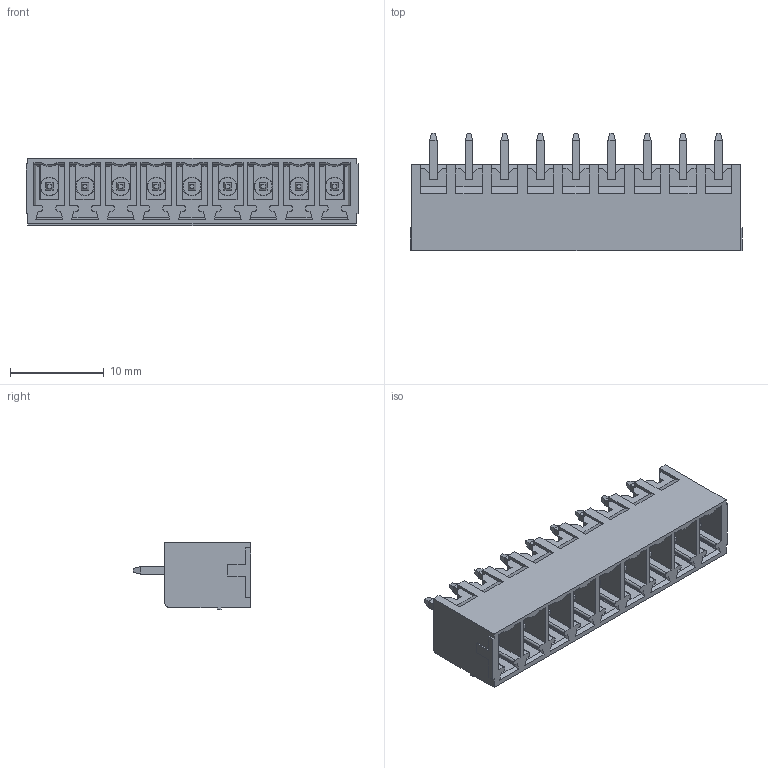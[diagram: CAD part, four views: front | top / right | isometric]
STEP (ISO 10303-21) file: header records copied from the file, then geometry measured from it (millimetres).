
FILE_DESCRIPTION(('FreeCAD Model'),'2;1');
FILE_NAME('Open CASCADE Shape Model','2023-05-24T15:58:30',('Author'),( ''),'Open CASCADE STEP processor 7.6','FreeCAD','Unknown');
FILE_SCHEMA(('AUTOMOTIVE_DESIGN { 1 0 10303 214 1 1 1 1 }'));
Length unit declared in the file: millimetre
Products named in the file (1): BR7MC2-09
Bounding box: 35.48 x 12.6 x 7.2 mm (x, y, z)
Volume: 1073 mm3; surface area: 3235.3 mm2
Topology: 1 solids, 1 shells, 738 faces, 1965 edges, 1247 vertices
Faces by surface type: plane 647, cylinder 46, cone 27, sphere 18
Entity records: 48810 total; most frequent: CARTESIAN_POINT 9321, DIRECTION 7366, LINE 5441, VECTOR 5441, ORIENTED_EDGE 3894, PCURVE 3894, DEFINITIONAL_REPRESENTATION 3894, EDGE_CURVE 1947
